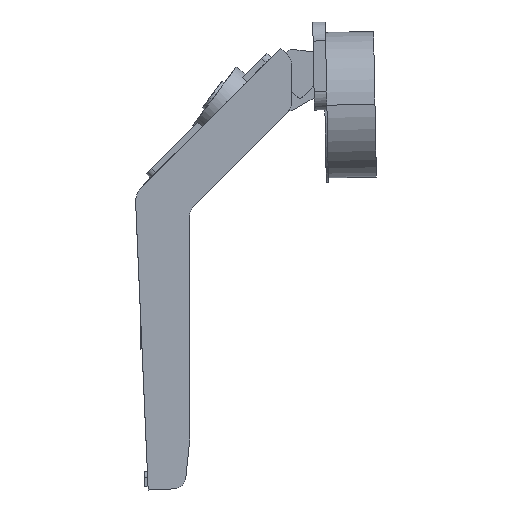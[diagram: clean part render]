
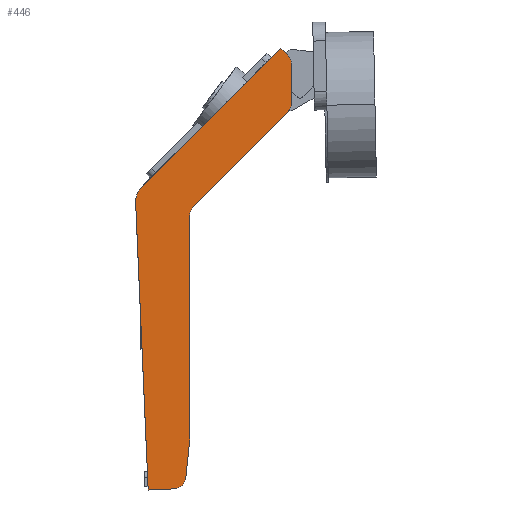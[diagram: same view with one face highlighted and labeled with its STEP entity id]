
A CAD part, left-side view. The second image highlights one B-rep face of the part: STEP entity #446.
In plain terms, the highlighted planar face has unit normal (-1, 0, 0).
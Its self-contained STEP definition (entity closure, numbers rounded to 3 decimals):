
#10 = VECTOR ( 'NONE', #1315, 1000. ) ;
#17 = CARTESIAN_POINT ( 'NONE',  ( -8.8, 0.945, -44.262 ) ) ;
#22 = EDGE_CURVE ( 'NONE', #1272, #2000, #752, .T. ) ;
#26 = LINE ( 'NONE', #865, #680 ) ;
#40 = DIRECTION ( 'NONE',  ( 0., 0., 1. ) ) ;
#56 = VECTOR ( 'NONE', #419, 1000. ) ;
#76 = CARTESIAN_POINT ( 'NONE',  ( -8.8, -23.379, 56.883 ) ) ;
#149 = EDGE_CURVE ( 'NONE', #1004, #952, #380, .T. ) ;
#167 = CARTESIAN_POINT ( 'NONE',  ( -8.8, 11.489, 25.208 ) ) ;
#176 = CARTESIAN_POINT ( 'NONE',  ( -8.8, 7.953, 21.672 ) ) ;
#181 = LINE ( 'NONE', #167, #861 ) ;
#193 = ORIENTED_EDGE ( 'NONE', *, *, #2446, .T. ) ;
#220 = DIRECTION ( 'NONE',  ( 0., 0., 1. ) ) ;
#262 = ORIENTED_EDGE ( 'NONE', *, *, #1723, .T. ) ;
#340 = EDGE_CURVE ( 'NONE', #1504, #1172, #936, .T. ) ;
#380 = LINE ( 'NONE', #1637, #1282 ) ;
#419 = DIRECTION ( 'NONE',  ( 0., -0.105, 0.995 ) ) ;
#437 = DIRECTION ( 'NONE',  ( 0., 0., 1. ) ) ;
#446 = ADVANCED_FACE ( 'NONE', ( #516 ), #1364, .T. ) ;
#472 = ORIENTED_EDGE ( 'NONE', *, *, #2220, .T. ) ;
#482 = LINE ( 'NONE', #1742, #10 ) ;
#488 = CARTESIAN_POINT ( 'NONE',  ( -8.8, 9.95, -47.208 ) ) ;
#499 = CIRCLE ( 'NONE', #2266, 3. ) ;
#516 = FACE_OUTER_BOUND ( 'NONE', #1841, .T. ) ;
#535 = VERTEX_POINT ( 'NONE', #1231 ) ;
#608 = CARTESIAN_POINT ( 'NONE',  ( -8.8, -3., 18.483 ) ) ;
#622 = CARTESIAN_POINT ( 'NONE',  ( -8.8, -21.783, 58.479 ) ) ;
#673 = VECTOR ( 'NONE', #1334, 1000. ) ;
#676 = AXIS2_PLACEMENT_3D ( 'NONE', #968, #1393, #998 ) ;
#680 = VECTOR ( 'NONE', #1081, 1000. ) ;
#683 = LINE ( 'NONE', #1328, #1526 ) ;
#712 = EDGE_CURVE ( 'NONE', #2672, #1504, #1666, .T. ) ;
#717 = AXIS2_PLACEMENT_3D ( 'NONE', #1891, #880, #2102 ) ;
#740 = CARTESIAN_POINT ( 'NONE',  ( -8.8, -3., 18.483 ) ) ;
#752 = CIRCLE ( 'NONE', #1938, 3. ) ;
#775 = CARTESIAN_POINT ( 'NONE',  ( -8.8, 0.945, -44.262 ) ) ;
#851 = ORIENTED_EDGE ( 'NONE', *, *, #2043, .T. ) ;
#852 = CIRCLE ( 'NONE', #676, 3. ) ;
#861 = VECTOR ( 'NONE', #1669, 1000. ) ;
#865 = CARTESIAN_POINT ( 'NONE',  ( -8.8, -0.879, 20.605 ) ) ;
#879 = VERTEX_POINT ( 'NONE', #1845 ) ;
#880 = DIRECTION ( 'NONE',  ( -1., 0., 0. ) ) ;
#888 = CARTESIAN_POINT ( 'NONE',  ( -8.8, -21.257, 45.226 ) ) ;
#889 = VERTEX_POINT ( 'NONE', #1259 ) ;
#919 = CARTESIAN_POINT ( 'NONE',  ( -8.8, 30., -33.697 ) ) ;
#936 = CIRCLE ( 'NONE', #1857, 30. ) ;
#952 = VERTEX_POINT ( 'NONE', #622 ) ;
#968 = CARTESIAN_POINT ( 'NONE',  ( -8.8, 3.929, -43.948 ) ) ;
#986 = CARTESIAN_POINT ( 'NONE',  ( -8.8, 0.164, -36.833 ) ) ;
#998 = DIRECTION ( 'NONE',  ( 0., 0., 1. ) ) ;
#1004 = VERTEX_POINT ( 'NONE', #76 ) ;
#1016 = EDGE_CURVE ( 'NONE', #1172, #1272, #482, .T. ) ;
#1023 = CIRCLE ( 'NONE', #1948, 5. ) ;
#1081 = DIRECTION ( 'NONE',  ( 0., -0.707, 0.707 ) ) ;
#1095 = DIRECTION ( 'NONE',  ( -1., 0., 0. ) ) ;
#1141 = ORIENTED_EDGE ( 'NONE', *, *, #2187, .T. ) ;
#1167 = LINE ( 'NONE', #488, #673 ) ;
#1168 = DIRECTION ( 'NONE',  ( 0., 0., 1. ) ) ;
#1172 = VERTEX_POINT ( 'NONE', #1868 ) ;
#1182 = VERTEX_POINT ( 'NONE', #2206 ) ;
#1206 = CARTESIAN_POINT ( 'NONE',  ( -8.8, -24.257, 54.762 ) ) ;
#1217 = ORIENTED_EDGE ( 'NONE', *, *, #1748, .T. ) ;
#1231 = CARTESIAN_POINT ( 'NONE',  ( -8.8, -23.379, 43.105 ) ) ;
#1259 = CARTESIAN_POINT ( 'NONE',  ( -8.8, 3.609, -46.931 ) ) ;
#1269 = DIRECTION ( 'NONE',  ( 1., 0., 0. ) ) ;
#1272 = VERTEX_POINT ( 'NONE', #2236 ) ;
#1282 = VECTOR ( 'NONE', #1438, 1000. ) ;
#1315 = DIRECTION ( 'NONE',  ( 0., 0., 1. ) ) ;
#1328 = CARTESIAN_POINT ( 'NONE',  ( -8.8, -24.257, 45.226 ) ) ;
#1334 = DIRECTION ( 'NONE',  ( 0., -0.999, 0.044 ) ) ;
#1337 = CIRCLE ( 'NONE', #717, 3. ) ;
#1364 = PLANE ( 'NONE',  #2031 ) ;
#1367 = CARTESIAN_POINT ( 'NONE',  ( -8.8, 9.95, -47.208 ) ) ;
#1393 = DIRECTION ( 'NONE',  ( -1., 0., 0. ) ) ;
#1438 = DIRECTION ( 'NONE',  ( 0., 0.707, 0.707 ) ) ;
#1488 = EDGE_CURVE ( 'NONE', #2340, #889, #1167, .T. ) ;
#1504 = VERTEX_POINT ( 'NONE', #986 ) ;
#1526 = VECTOR ( 'NONE', #1531, 1000. ) ;
#1531 = DIRECTION ( 'NONE',  ( 0., 0., 1. ) ) ;
#1533 = EDGE_CURVE ( 'NONE', #889, #2672, #852, .T. ) ;
#1590 = ORIENTED_EDGE ( 'NONE', *, *, #149, .T. ) ;
#1593 = VERTEX_POINT ( 'NONE', #1206 ) ;
#1605 = ORIENTED_EDGE ( 'NONE', *, *, #2288, .T. ) ;
#1617 = DIRECTION ( 'NONE',  ( 0., -0.044, -0.999 ) ) ;
#1619 = ORIENTED_EDGE ( 'NONE', *, *, #22, .T. ) ;
#1637 = CARTESIAN_POINT ( 'NONE',  ( -8.8, -22.419, 57.843 ) ) ;
#1642 = ORIENTED_EDGE ( 'NONE', *, *, #712, .T. ) ;
#1666 = LINE ( 'NONE', #17, #56 ) ;
#1669 = DIRECTION ( 'NONE',  ( 0., 0.707, -0.707 ) ) ;
#1692 = DIRECTION ( 'NONE',  ( -1., 0., 0. ) ) ;
#1723 = EDGE_CURVE ( 'NONE', #1593, #1004, #1337, .T. ) ;
#1741 = ORIENTED_EDGE ( 'NONE', *, *, #1488, .T. ) ;
#1742 = CARTESIAN_POINT ( 'NONE',  ( -8.8, 0., -33.697 ) ) ;
#1748 = EDGE_CURVE ( 'NONE', #2535, #1182, #1023, .T. ) ;
#1760 = DIRECTION ( 'NONE',  ( -1., 0., 0. ) ) ;
#1841 = EDGE_LOOP ( 'NONE', ( #1741, #2571, #1642, #2623, #2587, #1619, #851, #1141, #472, #262, #1590, #193, #1217, #1605 ) ) ;
#1845 = CARTESIAN_POINT ( 'NONE',  ( -8.8, -24.257, 45.226 ) ) ;
#1857 = AXIS2_PLACEMENT_3D ( 'NONE', #919, #1760, #2600 ) ;
#1868 = CARTESIAN_POINT ( 'NONE',  ( -8.8, 0., -33.697 ) ) ;
#1876 = CARTESIAN_POINT ( 'NONE',  ( -8.8, -0.879, 20.605 ) ) ;
#1891 = CARTESIAN_POINT ( 'NONE',  ( -8.8, -21.257, 54.762 ) ) ;
#1938 = AXIS2_PLACEMENT_3D ( 'NONE', #608, #1269, #437 ) ;
#1948 = AXIS2_PLACEMENT_3D ( 'NONE', #176, #1692, #220 ) ;
#2000 = VERTEX_POINT ( 'NONE', #1876 ) ;
#2031 = AXIS2_PLACEMENT_3D ( 'NONE', #740, #2431, #1168 ) ;
#2043 = EDGE_CURVE ( 'NONE', #2000, #535, #26, .T. ) ;
#2102 = DIRECTION ( 'NONE',  ( 0., 0., 1. ) ) ;
#2187 = EDGE_CURVE ( 'NONE', #535, #879, #499, .T. ) ;
#2206 = CARTESIAN_POINT ( 'NONE',  ( -8.8, 12.948, 21.454 ) ) ;
#2220 = EDGE_CURVE ( 'NONE', #879, #1593, #683, .T. ) ;
#2236 = CARTESIAN_POINT ( 'NONE',  ( -8.8, 0., 18.483 ) ) ;
#2266 = AXIS2_PLACEMENT_3D ( 'NONE', #888, #1095, #40 ) ;
#2288 = EDGE_CURVE ( 'NONE', #1182, #2340, #2644, .T. ) ;
#2340 = VERTEX_POINT ( 'NONE', #1367 ) ;
#2417 = CARTESIAN_POINT ( 'NONE',  ( -8.8, 11.489, 25.208 ) ) ;
#2431 = DIRECTION ( 'NONE',  ( -1., 0., 0. ) ) ;
#2446 = EDGE_CURVE ( 'NONE', #952, #2535, #181, .T. ) ;
#2535 = VERTEX_POINT ( 'NONE', #2417 ) ;
#2571 = ORIENTED_EDGE ( 'NONE', *, *, #1533, .T. ) ;
#2574 = VECTOR ( 'NONE', #1617, 1000. ) ;
#2587 = ORIENTED_EDGE ( 'NONE', *, *, #1016, .T. ) ;
#2600 = DIRECTION ( 'NONE',  ( 0., 0., 1. ) ) ;
#2620 = CARTESIAN_POINT ( 'NONE',  ( -8.8, 9.95, -47.208 ) ) ;
#2623 = ORIENTED_EDGE ( 'NONE', *, *, #340, .T. ) ;
#2644 = LINE ( 'NONE', #2620, #2574 ) ;
#2672 = VERTEX_POINT ( 'NONE', #775 ) ;
